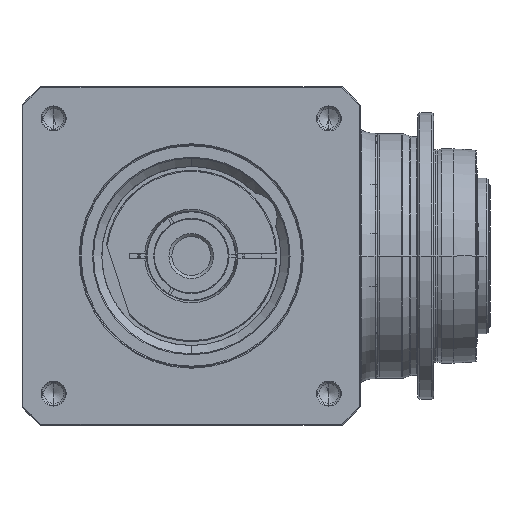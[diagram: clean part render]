
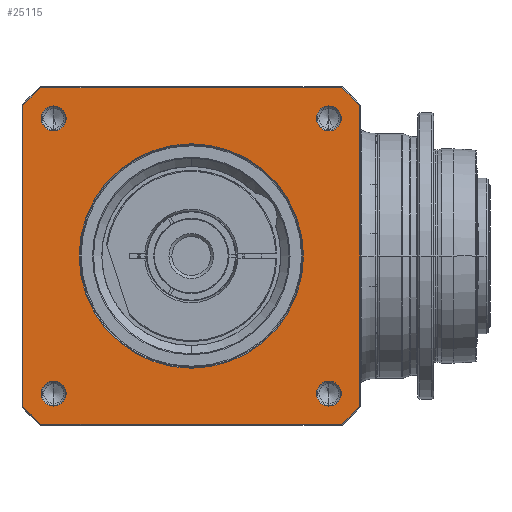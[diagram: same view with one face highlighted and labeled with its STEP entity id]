
A CAD part, front view. The second image highlights one B-rep face of the part: STEP entity #25115.
In plain terms, the highlighted planar face has unit normal (0, -1, 0) as drawn and (0, 0, 1) by its records, which use the part's own axes.
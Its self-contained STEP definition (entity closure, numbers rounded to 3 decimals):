
#23866=CARTESIAN_POINT('',(0.,0.,
76.));
#23867=DIRECTION('',(0.,0.,-1.));
#23868=DIRECTION('',(0.,-1.,0.));
#23869=AXIS2_PLACEMENT_3D('',#23866,#23867,#23868);
#23871=CARTESIAN_POINT('',(0.,0.,
76.));
#23872=DIRECTION('',(0.,0.,-1.));
#23873=DIRECTION('',(0.,1.,0.));
#23874=AXIS2_PLACEMENT_3D('',#23871,#23872,#23873);
#23876=CARTESIAN_POINT('',(0.,0.,76.));
#23877=DIRECTION('',(0.,0.,1.));
#23878=DIRECTION('',(-0.746,-0.666,0.));
#23879=AXIS2_PLACEMENT_3D('',#23876,#23877,#23878);
#23891=DIRECTION('',(1.,0.,0.));
#23892=VECTOR('',#23891,154.58);
#23893=CARTESIAN_POINT('',(-77.29,-86.5,76.));
#23894=LINE('',#23893,#23892);
#23904=CARTESIAN_POINT('',(0.,0.,76.));
#23905=DIRECTION('',(0.,0.,1.));
#23906=DIRECTION('',(0.666,-0.746,0.));
#23907=AXIS2_PLACEMENT_3D('',#23904,#23905,#23906);
#23919=DIRECTION('',(0.,1.,0.));
#23920=VECTOR('',#23919,154.58);
#23921=CARTESIAN_POINT('',(86.5,-77.29,76.));
#23922=LINE('',#23921,#23920);
#23932=CARTESIAN_POINT('',(0.,0.,76.));
#23933=DIRECTION('',(0.,0.,1.));
#23934=DIRECTION('',(0.746,0.666,0.));
#23935=AXIS2_PLACEMENT_3D('',#23932,#23933,#23934);
#23947=DIRECTION('',(-1.,0.,0.));
#23948=VECTOR('',#23947,154.58);
#23949=CARTESIAN_POINT('',(77.29,86.5,76.));
#23950=LINE('',#23949,#23948);
#23955=CARTESIAN_POINT('',(0.,0.,76.));
#23956=DIRECTION('',(0.,0.,1.));
#23957=DIRECTION('',(-0.666,0.746,0.));
#23958=AXIS2_PLACEMENT_3D('',#23955,#23956,#23957);
#23975=DIRECTION('',(0.,-1.,0.));
#23976=VECTOR('',#23975,154.58);
#23977=CARTESIAN_POINT('',(-86.5,77.29,76.));
#23978=LINE('',#23977,#23976);
#24061=CARTESIAN_POINT('',(-70.711,70.711,76.));
#24062=DIRECTION('',(0.,0.,1.));
#24063=DIRECTION('',(-1.,0.,0.));
#24064=AXIS2_PLACEMENT_3D('',#24061,#24062,#24063);
#24079=CARTESIAN_POINT('',(-70.711,70.711,76.));
#24080=DIRECTION('',(0.,0.,1.));
#24081=DIRECTION('',(1.,0.,0.));
#24082=AXIS2_PLACEMENT_3D('',#24079,#24080,#24081);
#24115=CARTESIAN_POINT('',(70.711,70.711,76.));
#24116=DIRECTION('',(0.,0.,1.));
#24117=DIRECTION('',(-1.,0.,0.));
#24118=AXIS2_PLACEMENT_3D('',#24115,#24116,#24117);
#24133=CARTESIAN_POINT('',(70.711,70.711,76.));
#24134=DIRECTION('',(0.,0.,1.));
#24135=DIRECTION('',(1.,0.,0.));
#24136=AXIS2_PLACEMENT_3D('',#24133,#24134,#24135);
#24169=CARTESIAN_POINT('',(70.711,-70.711,76.));
#24170=DIRECTION('',(0.,0.,1.));
#24171=DIRECTION('',(-1.,0.,0.));
#24172=AXIS2_PLACEMENT_3D('',#24169,#24170,#24171);
#24187=CARTESIAN_POINT('',(70.711,-70.711,76.));
#24188=DIRECTION('',(0.,0.,1.));
#24189=DIRECTION('',(1.,0.,0.));
#24190=AXIS2_PLACEMENT_3D('',#24187,#24188,#24189);
#24223=CARTESIAN_POINT('',(-70.711,-70.711,76.));
#24224=DIRECTION('',(0.,0.,1.));
#24225=DIRECTION('',(-1.,0.,0.));
#24226=AXIS2_PLACEMENT_3D('',#24223,#24224,#24225);
#24241=CARTESIAN_POINT('',(-70.711,-70.711,76.));
#24242=DIRECTION('',(0.,0.,1.));
#24243=DIRECTION('',(1.,0.,0.));
#24244=AXIS2_PLACEMENT_3D('',#24241,#24242,#24243);
#24373=CARTESIAN_POINT('',(86.5,-77.29,76.));
#24374=CARTESIAN_POINT('',(86.5,77.29,76.));
#24375=VERTEX_POINT('',#24373);
#24376=VERTEX_POINT('',#24374);
#24381=CARTESIAN_POINT('',(77.29,-86.5,76.));
#24382=VERTEX_POINT('',#24381);
#24385=CARTESIAN_POINT('',(-77.29,-86.5,76.));
#24386=VERTEX_POINT('',#24385);
#24389=CARTESIAN_POINT('',(-86.5,-77.29,76.));
#24390=VERTEX_POINT('',#24389);
#24393=CARTESIAN_POINT('',(-86.5,77.29,76.));
#24394=VERTEX_POINT('',#24393);
#24397=CARTESIAN_POINT('',(-77.29,86.5,76.));
#24398=VERTEX_POINT('',#24397);
#24401=CARTESIAN_POINT('',(77.29,86.5,76.));
#24402=VERTEX_POINT('',#24401);
#24411=CARTESIAN_POINT('',(-77.111,70.711,76.));
#24412=CARTESIAN_POINT('',(-64.311,70.711,76.));
#24413=VERTEX_POINT('',#24411);
#24414=VERTEX_POINT('',#24412);
#24437=CARTESIAN_POINT('',(77.111,70.711,76.));
#24438=CARTESIAN_POINT('',(64.311,70.711,76.));
#24439=VERTEX_POINT('',#24437);
#24440=VERTEX_POINT('',#24438);
#24445=CARTESIAN_POINT('',(77.111,-70.711,76.));
#24446=CARTESIAN_POINT('',(64.311,-70.711,76.));
#24447=VERTEX_POINT('',#24445);
#24448=VERTEX_POINT('',#24446);
#24453=CARTESIAN_POINT('',(-64.311,-70.711,76.));
#24454=CARTESIAN_POINT('',(-77.111,-70.711,76.));
#24455=VERTEX_POINT('',#24453);
#24456=VERTEX_POINT('',#24454);
#24461=CARTESIAN_POINT('',(0.,-57.65,76.));
#24462=CARTESIAN_POINT('',(0.,57.65,
76.));
#24463=VERTEX_POINT('',#24461);
#24464=VERTEX_POINT('',#24462);
#25063=CARTESIAN_POINT('',(0.,0.,76.));
#25064=DIRECTION('',(0.,0.,1.));
#25065=DIRECTION('',(1.,0.,0.));
#25066=AXIS2_PLACEMENT_3D('',#25063,#25064,#25065);
#25067=PLANE('',#25066);
#25069=ORIENTED_EDGE('',*,*,#25068,.F.);
#25071=ORIENTED_EDGE('',*,*,#25070,.F.);
#25073=ORIENTED_EDGE('',*,*,#25072,.F.);
#25075=ORIENTED_EDGE('',*,*,#25074,.F.);
#25077=ORIENTED_EDGE('',*,*,#25076,.F.);
#25079=ORIENTED_EDGE('',*,*,#25078,.F.);
#25081=ORIENTED_EDGE('',*,*,#25080,.F.);
#25083=ORIENTED_EDGE('',*,*,#25082,.F.);
#25084=EDGE_LOOP('',(#25069,#25071,#25073,#25075,#25077,#25079,#25081,#25083));
#25085=FACE_OUTER_BOUND('',#25084,.F.);
#25086=ORIENTED_EDGE('',*,*,#25053,.F.);
#25088=ORIENTED_EDGE('',*,*,#25087,.F.);
#25089=EDGE_LOOP('',(#25086,#25088));
#25090=FACE_BOUND('',#25089,.F.);
#25092=ORIENTED_EDGE('',*,*,#25091,.T.);
#25094=ORIENTED_EDGE('',*,*,#25093,.T.);
#25095=EDGE_LOOP('',(#25092,#25094));
#25096=FACE_BOUND('',#25095,.F.);
#25098=ORIENTED_EDGE('',*,*,#25097,.T.);
#25100=ORIENTED_EDGE('',*,*,#25099,.T.);
#25101=EDGE_LOOP('',(#25098,#25100));
#25102=FACE_BOUND('',#25101,.F.);
#25104=ORIENTED_EDGE('',*,*,#25103,.T.);
#25106=ORIENTED_EDGE('',*,*,#25105,.T.);
#25107=EDGE_LOOP('',(#25104,#25106));
#25108=FACE_BOUND('',#25107,.F.);
#25110=ORIENTED_EDGE('',*,*,#25109,.T.);
#25112=ORIENTED_EDGE('',*,*,#25111,.T.);
#25113=EDGE_LOOP('',(#25110,#25112));
#25114=FACE_BOUND('',#25113,.F.);
#25115=ADVANCED_FACE('',(#25085,#25090,#25096,#25102,#25108,#25114),#25067,.T.);
#23870=CIRCLE('',#23869,57.65);
#23875=CIRCLE('',#23874,57.65);
#23880=CIRCLE('',#23879,116.);
#23908=CIRCLE('',#23907,116.);
#23936=CIRCLE('',#23935,116.);
#23959=CIRCLE('',#23958,116.);
#24065=CIRCLE('',#24064,6.4);
#24083=CIRCLE('',#24082,6.4);
#24119=CIRCLE('',#24118,6.4);
#24137=CIRCLE('',#24136,6.4);
#24173=CIRCLE('',#24172,6.4);
#24191=CIRCLE('',#24190,6.4);
#24227=CIRCLE('',#24226,6.4);
#24245=CIRCLE('',#24244,6.4);
#25053=EDGE_CURVE('',#24463,#24464,#23870,.T.);
#25068=EDGE_CURVE('',#24390,#24386,#23880,.T.);
#25070=EDGE_CURVE('',#24394,#24390,#23978,.T.);
#25072=EDGE_CURVE('',#24398,#24394,#23959,.T.);
#25074=EDGE_CURVE('',#24402,#24398,#23950,.T.);
#25076=EDGE_CURVE('',#24376,#24402,#23936,.T.);
#25078=EDGE_CURVE('',#24375,#24376,#23922,.T.);
#25080=EDGE_CURVE('',#24382,#24375,#23908,.T.);
#25082=EDGE_CURVE('',#24386,#24382,#23894,.T.);
#25087=EDGE_CURVE('',#24464,#24463,#23875,.T.);
#25091=EDGE_CURVE('',#24413,#24414,#24065,.T.);
#25093=EDGE_CURVE('',#24414,#24413,#24083,.T.);
#25097=EDGE_CURVE('',#24440,#24439,#24119,.T.);
#25099=EDGE_CURVE('',#24439,#24440,#24137,.T.);
#25103=EDGE_CURVE('',#24448,#24447,#24173,.T.);
#25105=EDGE_CURVE('',#24447,#24448,#24191,.T.);
#25109=EDGE_CURVE('',#24456,#24455,#24227,.T.);
#25111=EDGE_CURVE('',#24455,#24456,#24245,.T.);
